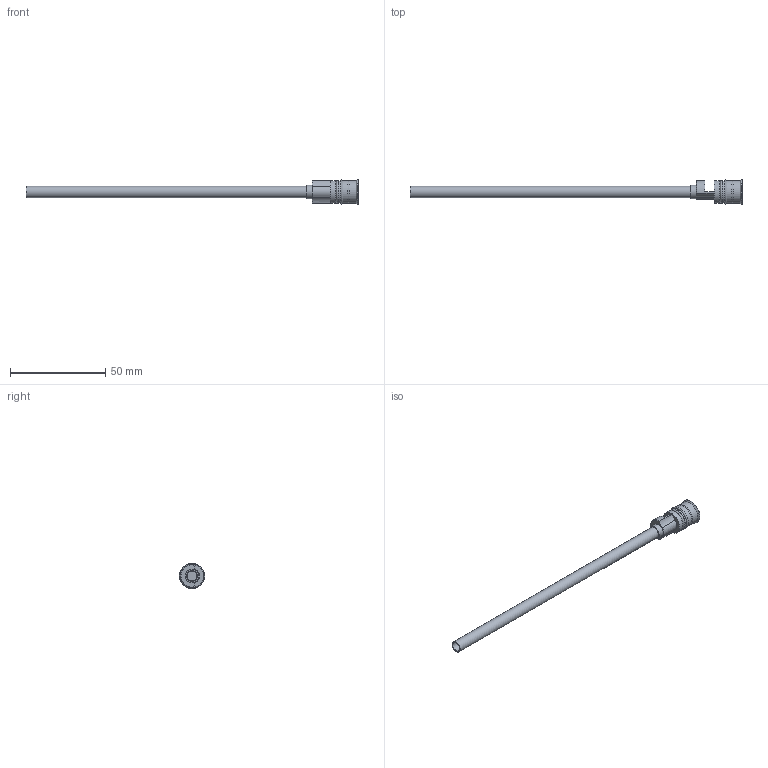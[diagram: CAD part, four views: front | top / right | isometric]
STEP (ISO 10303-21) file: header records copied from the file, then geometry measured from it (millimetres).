
FILE_DESCRIPTION( ( 'STEP AP214' ), '1' );
FILE_NAME( 'p:/temp/worker_239/temp/exporttempdir_3984_77_KZcNj/format_0/RF-12Fx150.stp', '2021-02-05T19:48:27', ( 'License CC BY-ND 4.0' ), ( 'CADENAS' ), ' ', 'PARTsolutions', ' ' );
FILE_SCHEMA( ( 'AUTOMOTIVE_DESIGN { 1 0 10303 214 1 1 1 1 }' ) );
Length unit declared in the file: millimetre
Products named in the file (1): _RF-12Fx150
Bounding box: 174 x 13.3 x 13.3 mm (x, y, z)
Volume: 3240.2 mm3; surface area: 6762.2 mm2
Topology: 1 solids, 1 shells, 47 faces, 109 edges, 69 vertices
Faces by surface type: plane 26, cylinder 13, cone 5, torus 3
Full cylindrical faces by diameter (mm): 5 x1, 6 x2, 7 x1, 12 x4, 13.3 x1
Entity records: 1643 total; most frequent: CARTESIAN_POINT 225, DIRECTION 217, ORIENTED_EDGE 182, EDGE_CURVE 91, AXIS2_PLACEMENT_3D 83, EDGE_LOOP 70, VERTEX_POINT 69, FACE_OUTER_BOUND 59
